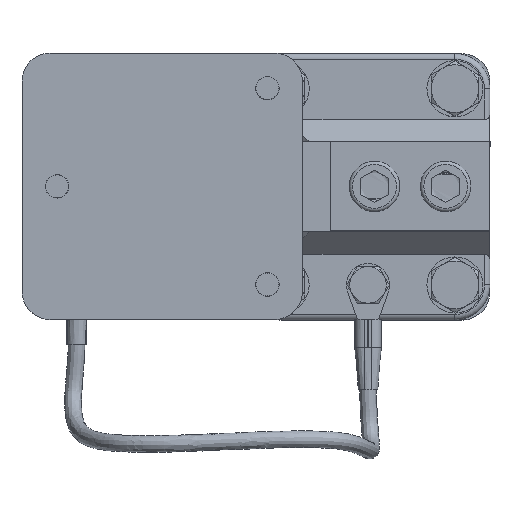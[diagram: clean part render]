
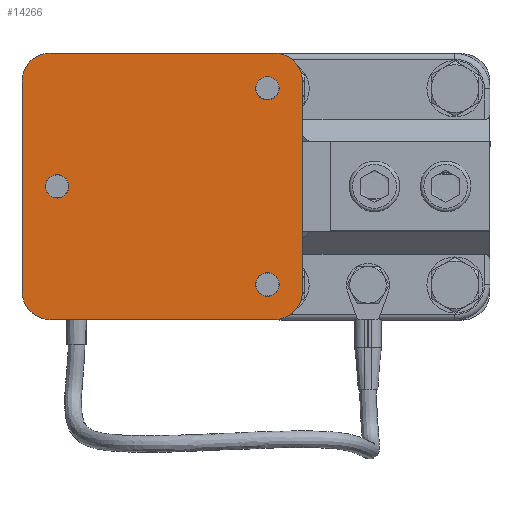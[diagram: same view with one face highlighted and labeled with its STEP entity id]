
A CAD part, top view. The second image highlights one B-rep face of the part: STEP entity #14266.
In plain terms, the highlighted planar face has unit normal (0, 0, 1) as drawn and (0, 0, -1) by its records, which use the part's own axes.
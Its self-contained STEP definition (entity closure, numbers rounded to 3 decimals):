
#741=FACE_BOUND('',#3605,.T.);
#742=FACE_BOUND('',#3606,.T.);
#743=FACE_BOUND('',#3607,.T.);
#1724=CIRCLE('',#16249,4.188);
#1726=CIRCLE('',#16252,4.188);
#1728=CIRCLE('',#16255,4.188);
#1730=CIRCLE('',#16259,10.);
#1732=CIRCLE('',#16263,10.);
#1734=CIRCLE('',#16267,10.);
#1736=CIRCLE('',#16271,10.);
#2726=FACE_OUTER_BOUND('',#3604,.T.);
#3604=EDGE_LOOP('',(#13138,#13139,#13140,#13141,#13142,#13143,#13144,#13145));
#3605=EDGE_LOOP('',(#13146));
#3606=EDGE_LOOP('',(#13147));
#3607=EDGE_LOOP('',(#13148));
#4678=LINE('',#29168,#5762);
#4683=LINE('',#29181,#5767);
#4687=LINE('',#29193,#5771);
#4691=LINE('',#29205,#5775);
#5762=VECTOR('',#20202,10.);
#5767=VECTOR('',#20215,10.);
#5771=VECTOR('',#20227,10.);
#5775=VECTOR('',#20239,10.);
#7049=VERTEX_POINT('',#29146);
#7051=VERTEX_POINT('',#29152);
#7053=VERTEX_POINT('',#29158);
#7056=VERTEX_POINT('',#29165);
#7057=VERTEX_POINT('',#29167);
#7059=VERTEX_POINT('',#29173);
#7061=VERTEX_POINT('',#29179);
#7063=VERTEX_POINT('',#29185);
#7065=VERTEX_POINT('',#29191);
#7067=VERTEX_POINT('',#29197);
#7069=VERTEX_POINT('',#29203);
#9066=EDGE_CURVE('',#7049,#7049,#1724,.T.);
#9069=EDGE_CURVE('',#7051,#7051,#1726,.T.);
#9072=EDGE_CURVE('',#7053,#7053,#1728,.T.);
#9075=EDGE_CURVE('',#7057,#7056,#4678,.T.);
#9079=EDGE_CURVE('',#7056,#7059,#1730,.T.);
#9082=EDGE_CURVE('',#7059,#7061,#4683,.T.);
#9085=EDGE_CURVE('',#7061,#7063,#1732,.T.);
#9088=EDGE_CURVE('',#7063,#7065,#4687,.T.);
#9091=EDGE_CURVE('',#7065,#7067,#1734,.T.);
#9094=EDGE_CURVE('',#7067,#7069,#4691,.T.);
#9096=EDGE_CURVE('',#7069,#7057,#1736,.T.);
#13138=ORIENTED_EDGE('',*,*,#9096,.T.);
#13139=ORIENTED_EDGE('',*,*,#9075,.T.);
#13140=ORIENTED_EDGE('',*,*,#9079,.T.);
#13141=ORIENTED_EDGE('',*,*,#9082,.T.);
#13142=ORIENTED_EDGE('',*,*,#9085,.T.);
#13143=ORIENTED_EDGE('',*,*,#9088,.T.);
#13144=ORIENTED_EDGE('',*,*,#9091,.T.);
#13145=ORIENTED_EDGE('',*,*,#9094,.T.);
#13146=ORIENTED_EDGE('',*,*,#9066,.T.);
#13147=ORIENTED_EDGE('',*,*,#9069,.T.);
#13148=ORIENTED_EDGE('',*,*,#9072,.T.);
#13476=PLANE('',#16273);
#14266=ADVANCED_FACE('',(#2726,#741,#742,#743),#13476,.F.);
#16249=AXIS2_PLACEMENT_3D('',#29148,#20182,#20183);
#16252=AXIS2_PLACEMENT_3D('',#29154,#20189,#20190);
#16255=AXIS2_PLACEMENT_3D('',#29160,#20196,#20197);
#16259=AXIS2_PLACEMENT_3D('',#29175,#20209,#20210);
#16263=AXIS2_PLACEMENT_3D('',#29187,#20221,#20222);
#16267=AXIS2_PLACEMENT_3D('',#29199,#20233,#20234);
#16271=AXIS2_PLACEMENT_3D('',#29208,#20244,#20245);
#16273=AXIS2_PLACEMENT_3D('',#29210,#20248,#20249);
#20182=DIRECTION('center_axis',(0.,0.,1.));
#20183=DIRECTION('ref_axis',(1.,0.,0.));
#20189=DIRECTION('center_axis',(0.,0.,1.));
#20190=DIRECTION('ref_axis',(1.,0.,0.));
#20196=DIRECTION('center_axis',(0.,0.,1.));
#20197=DIRECTION('ref_axis',(1.,0.,0.));
#20202=DIRECTION('',(1.,0.,0.));
#20209=DIRECTION('center_axis',(0.,0.,-1.));
#20210=DIRECTION('ref_axis',(-1.,0.,0.));
#20215=DIRECTION('',(0.,-1.,0.));
#20221=DIRECTION('center_axis',(0.,0.,-1.));
#20222=DIRECTION('ref_axis',(0.,1.,0.));
#20227=DIRECTION('',(-1.,0.,0.));
#20233=DIRECTION('center_axis',(0.,0.,-1.));
#20234=DIRECTION('ref_axis',(1.,0.,0.));
#20239=DIRECTION('',(0.,1.,0.));
#20244=DIRECTION('center_axis',(0.,0.,-1.));
#20245=DIRECTION('ref_axis',(0.,-1.,0.));
#20248=DIRECTION('center_axis',(0.,0.,1.));
#20249=DIRECTION('ref_axis',(1.,0.,0.));
#29146=CARTESIAN_POINT('',(33.312,-35.,0.));
#29148=CARTESIAN_POINT('Origin',(37.5,-35.,0.));
#29152=CARTESIAN_POINT('',(33.312,35.,0.));
#29154=CARTESIAN_POINT('Origin',(37.5,35.,0.));
#29158=CARTESIAN_POINT('',(-41.688,0.,0.));
#29160=CARTESIAN_POINT('Origin',(-37.5,0.,0.));
#29165=CARTESIAN_POINT('',(40.,47.5,0.));
#29167=CARTESIAN_POINT('',(-40.,47.5,0.));
#29168=CARTESIAN_POINT('',(-40.,47.5,0.));
#29173=CARTESIAN_POINT('',(50.,37.5,0.));
#29175=CARTESIAN_POINT('Origin',(40.,37.5,0.));
#29179=CARTESIAN_POINT('',(50.,-37.5,0.));
#29181=CARTESIAN_POINT('',(50.,37.5,0.));
#29185=CARTESIAN_POINT('',(40.,-47.5,0.));
#29187=CARTESIAN_POINT('Origin',(40.,-37.5,0.));
#29191=CARTESIAN_POINT('',(-40.,-47.5,0.));
#29193=CARTESIAN_POINT('',(40.,-47.5,0.));
#29197=CARTESIAN_POINT('',(-50.,-37.5,0.));
#29199=CARTESIAN_POINT('Origin',(-40.,-37.5,0.));
#29203=CARTESIAN_POINT('',(-50.,37.5,0.));
#29205=CARTESIAN_POINT('',(-50.,-37.5,0.));
#29208=CARTESIAN_POINT('Origin',(-40.,37.5,0.));
#29210=CARTESIAN_POINT('Origin',(0.,0.,
0.));
